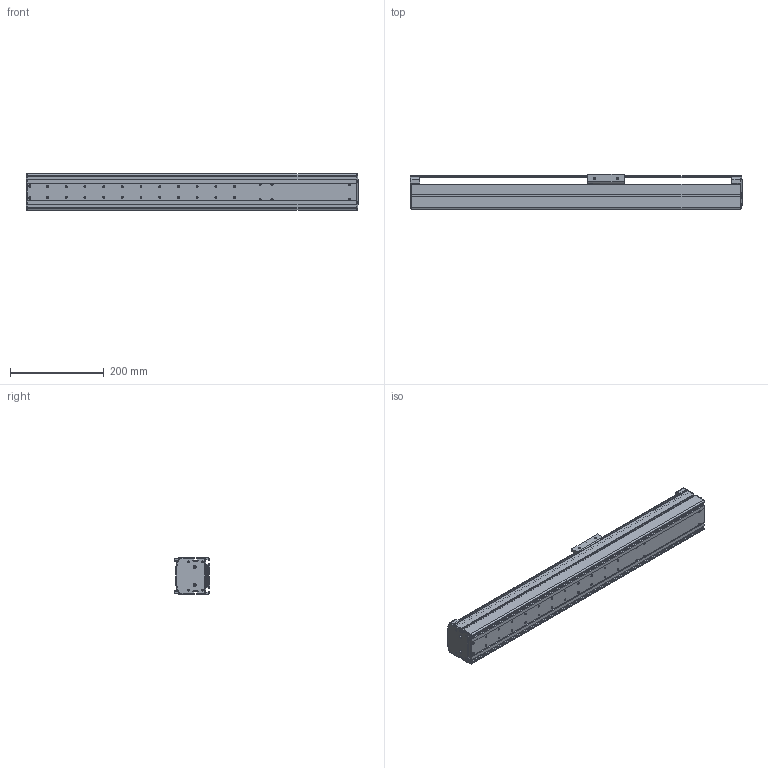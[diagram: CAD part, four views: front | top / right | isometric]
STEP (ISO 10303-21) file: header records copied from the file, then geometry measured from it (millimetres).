
FILE_DESCRIPTION((''),'2;1');
FILE_NAME('BE10E-ST-S_B-35_IGS_PRT','2017-06-17T',(' '),(''),'PRO/ENGINEER BY PARAMETRIC TECHNOLOGY CORPORATION, 2015030','PRO/ENGINEER BY PARAMETRIC TECHNOLOGY CORPORATION, 2015030','');
FILE_SCHEMA(('CONFIG_CONTROL_DESIGN'));
Length unit declared in the file: millimetre
Products named in the file (1): BE10E-ST-S_B-35_IGS_PRT
Bounding box: 710 x 75 x 78 mm (x, y, z)
Volume: 824782.9 mm3; surface area: 558279.5 mm2
Topology: 3 solids, 61 shells, 1115 faces, 2975 edges, 1924 vertices
Faces by surface type: cylinder 542, plane 420, torus 66, sphere 42, cone 38, bspline 7
Entity records: 35890 total; most frequent: CARTESIAN_POINT 7354, DIRECTION 6202, ORIENTED_EDGE 5688, EDGE_CURVE 2955, AXIS2_PLACEMENT_3D 2330, VERTEX_POINT 1924, VECTOR 1542, LINE 1542
